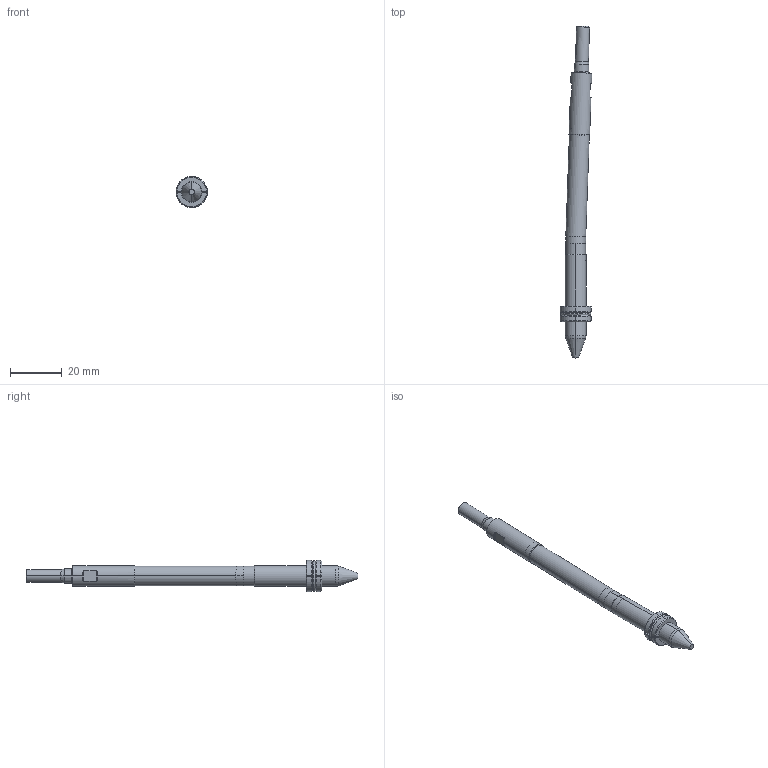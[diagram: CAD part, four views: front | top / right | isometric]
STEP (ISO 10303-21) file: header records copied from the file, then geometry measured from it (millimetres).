
FILE_DESCRIPTION (( 'STEP AP214' ), '1' );
FILE_NAME ('WP080030-EJE 2°.STEP', '2021-03-19T15:18:30', ( '' ), ( '' ), 'SwSTEP 2.0', 'SolidWorks 2019', '' );
FILE_SCHEMA (( 'AUTOMOTIVE_DESIGN' ));
Length unit declared in the file: millimetre
Products named in the file (6): WP080030-EJE 2°; Web-WP08-6; Web-WP08-F_WP08-F-ON 2ø; Web-WP08-1; Web-WP08-7; Web-WP08-2
Assembly tree (5 placements, depth 2):
  WP080030-EJE 2°
    Web-WP08-1
    Web-WP08-F_WP08-F-ON 2ø
    Web-WP08-2
    Web-WP08-6
    Web-WP08-7
Bounding box: 12.24 x 128.03 x 12 mm (x, y, z)
Volume: 5841.1 mm3; surface area: 4095.2 mm2
Topology: 6 solids, 6 shells, 121 faces, 280 edges, 174 vertices
Faces by surface type: cylinder 36, plane 29, cone 28, torus 28
Entity records: 3977 total; most frequent: CARTESIAN_POINT 767, DIRECTION 652, ORIENTED_EDGE 560, AXIS2_PLACEMENT_3D 283, EDGE_CURVE 280, VERTEX_POINT 174, CIRCLE 154, EDGE_LOOP 126
